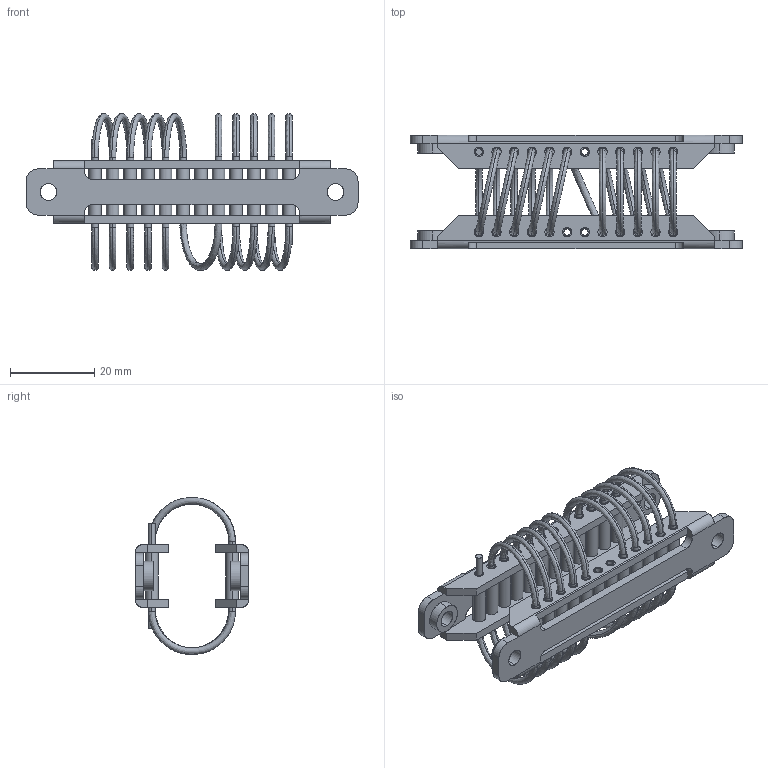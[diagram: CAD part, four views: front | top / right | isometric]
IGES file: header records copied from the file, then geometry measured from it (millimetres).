
Start section: SolidWorks IGES file using analytic representation for surfaces
Bounding box: 79 x 27.1 x 37.38 mm (x, y, z)
Surface area: 15016.4 mm2 (no closed solid volume)
Topology: 0 solids, 0 shells, 287 faces, 7494 edges, 7494 vertices
Faces by surface type: bspline 155, revolution 132
